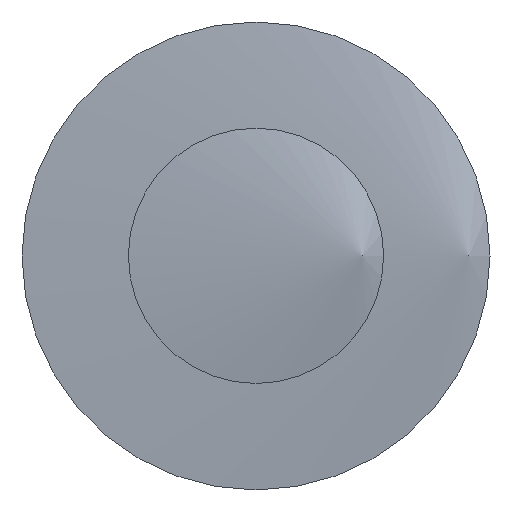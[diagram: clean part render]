
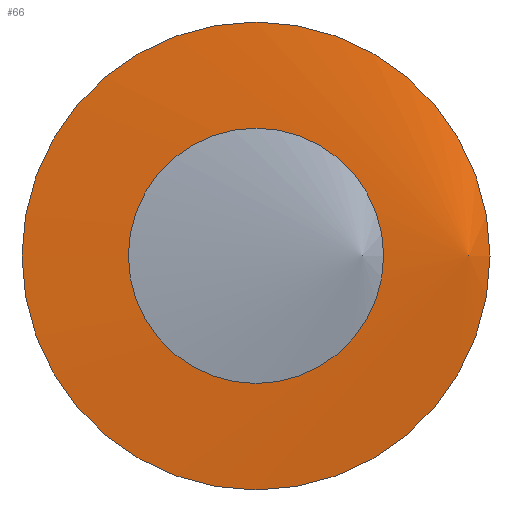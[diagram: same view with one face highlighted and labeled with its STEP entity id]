
A CAD part, top view. The second image highlights one B-rep face of the part: STEP entity #66.
In plain terms, the highlighted conical face has half-angle 45 degrees and reference radius 10 mm.
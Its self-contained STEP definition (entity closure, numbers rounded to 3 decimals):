
#1=CARTESIAN_POINT('',(0.,0.,0.));
#6=CARTESIAN_POINT('',(10.,0.,20.));
#7=CARTESIAN_POINT('',(10.,0.,-20.));
#8=CARTESIAN_POINT('',(12.,0.,22.));
#9=CARTESIAN_POINT('',(10.,0.,0.));
#10=DIRECTION('',(1.,0.,0.));
#11=DIRECTION('',(0.,0.,-1.));
#12=AXIS2_PLACEMENT_3D('',#1,#10,#11);
#14=AXIS2_PLACEMENT_3D('',#9,#10,#11);
#15=CARTESIAN_POINT('',(12.,0.,0.));
#16=AXIS2_PLACEMENT_3D('',#15,#10,#11);
#23=VERTEX_POINT('',#6);
#24=VERTEX_POINT('',#7);
#25=VERTEX_POINT('',#8);
#32=DIRECTION('',(2.,0.,2.));
#33=VECTOR('',#32,1.);
#35=CIRCLE('',#14,20.);
#36=CIRCLE('',#16,22.);
#37=LINE('',#6,#33);
#44=EDGE_CURVE('',#23,#24,#35,.T.);
#45=EDGE_CURVE('',#24,#23,#35,.T.);
#46=EDGE_CURVE('',#23,#25,#37,.T.);
#47=EDGE_CURVE('',#25,#25,#36,.T.);
#55=ORIENTED_EDGE('',*,*,#45,.F.);
#56=ORIENTED_EDGE('',*,*,#44,.F.);
#57=ORIENTED_EDGE('',*,*,#46,.T.);
#58=ORIENTED_EDGE('',*,*,#47,.F.);
#59=ORIENTED_EDGE('',*,*,#46,.F.);
#62=CONICAL_SURFACE('',#12,10.,0.785);
#64=EDGE_LOOP('',(#55,#56,#57,#58,#59));
#65=FACE_OUTER_BOUND('',#64,.T.);
#66=ADVANCED_FACE('',(#65),#62,.T.);
